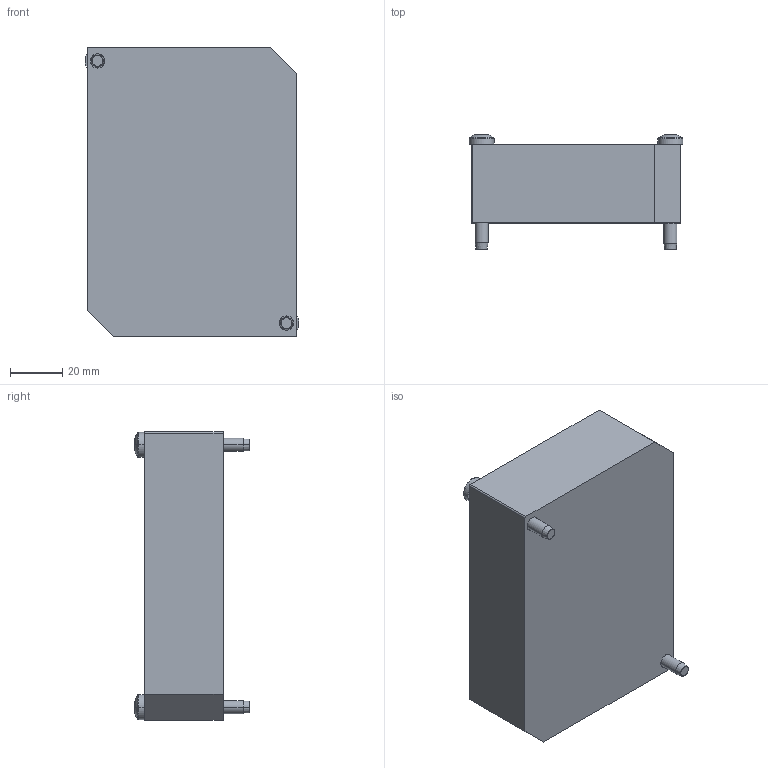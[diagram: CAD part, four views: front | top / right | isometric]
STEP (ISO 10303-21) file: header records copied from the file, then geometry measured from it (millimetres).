
FILE_DESCRIPTION((''),'2;1');
FILE_NAME('9806000145_ASM','2020-11-09T09:53:07',('silke.otte'),(''),'CREO PARAMETRIC BY PTC INC, 2018300','CREO PARAMETRIC BY PTC INC, 2018300','');
FILE_SCHEMA(('AUTOMOTIVE_DESIGN { 1 0 10303 214 1 1 1 1 }'));
Length unit declared in the file: millimetre
Products named in the file (3): 9511000080; 9261465000; 9806000145_ASM
Assembly tree (3 placements, depth 2):
  9806000145_ASM
    9511000080
    9261465000  x2
Bounding box: 81.5 x 43.7 x 110 mm (x, y, z)
Volume: 261520.8 mm3; surface area: 32135.1 mm2
Topology: 3 solids, 5 shells, 98 faces, 228 edges, 138 vertices
Faces by surface type: cylinder 46, cone 24, plane 16, torus 8, sphere 4
Entity records: 3528 total; most frequent: CARTESIAN_POINT 548, DIRECTION 313, ORIENTED_EDGE 258, PROPERTY_DEFINITION 170, REPRESENTATION 167, PROPERTY_DEFINITION_REPRESENTATION 167, COLOUR_RGB 144, GENERAL_PROPERTY 143
